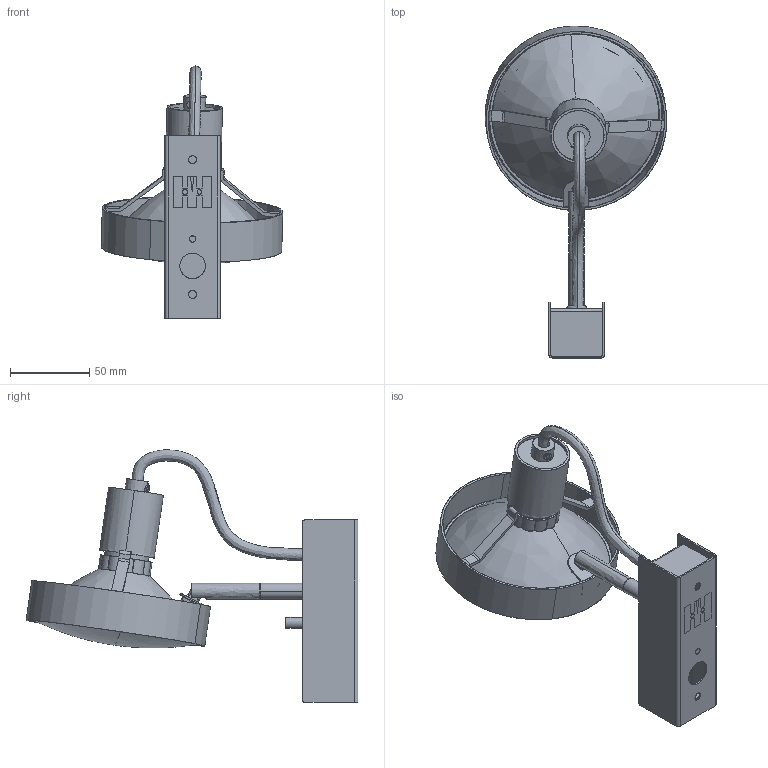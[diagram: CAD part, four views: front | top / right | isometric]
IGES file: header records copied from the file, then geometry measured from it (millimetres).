
Start section: SolidWorks IGES file using analytic representation for surfaces
Global section: file name: C:\Users\Asia\Desktop\IGS CROSS BASIC\115 cross igs.IGS; native system: SolidWorks 2016; preprocessor: SolidWorks 2016; author: Asia; date: 161021.085709; units: millimetre
Bounding box: 114.52 x 209.37 x 159.22 mm (x, y, z)
Surface area: 145508.2 mm2 (no closed solid volume)
Topology: 0 solids, 0 shells, 1247 faces, 17171 edges, 17124 vertices
Faces by surface type: bspline 685, revolution 562
